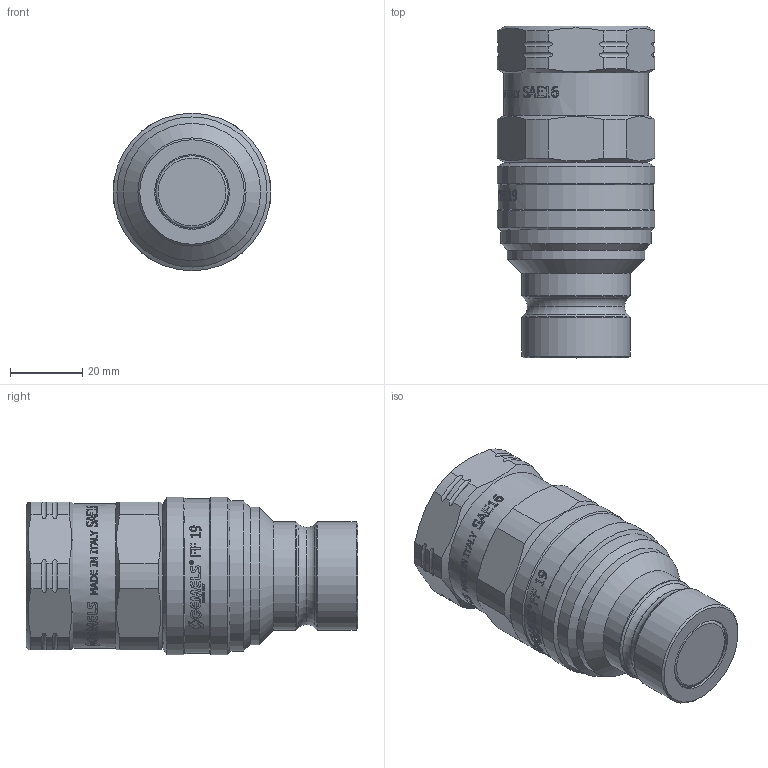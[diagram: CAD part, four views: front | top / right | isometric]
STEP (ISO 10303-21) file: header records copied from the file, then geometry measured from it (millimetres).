
FILE_DESCRIPTION(/* description */ (''),/* implementation_level */ '2;1');
FILE_NAME(/* name */ 'NC05S050000.stp',/* time_stamp */ '2024-11-19T11:56:59+01:00',/* author */ ('thomas.belotti'),/* organization */ (''),/* preprocessor_version */ 'ST-DEVELOPER v20',/* originating_system */ 'Autodesk Inventor 2024',/* authorisation */ '');
FILE_SCHEMA (('AUTOMOTIVE_DESIGN { 1 0 10303 214 3 1 1 }'));
Length unit declared in the file: millimetre
Products named in the file (1): Parte21
Bounding box: 43.73 x 92 x 43.7 mm (x, y, z)
Volume: 88248.4 mm3; surface area: 17149.3 mm2
Topology: 1 solids, 1 shells, 1257 faces, 3539 edges, 2354 vertices
Faces by surface type: bspline 750, plane 369, cylinder 102, cone 18, torus 18
Full cylindrical faces by diameter (mm): 20.7 x1, 23 x1, 26.9 x1, 29.95 x2, 31.26 x1, 31.5 x1, 37 x1, 37.3 x1, 38.05 x1, 40 x1, 41.6 x1, 43 x1, 43.7 x2
Entity records: 53588 total; most frequent: CARTESIAN_POINT 24642, ORIENTED_EDGE 7078, EDGE_CURVE 3539, DIRECTION 3485, VERTEX_POINT 2354, B_SPLINE_CURVE_WITH_KNOTS 1555, LINE 1443, VECTOR 1443
